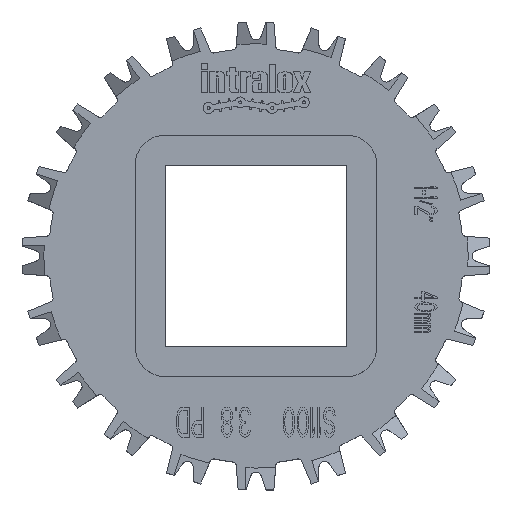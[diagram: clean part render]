
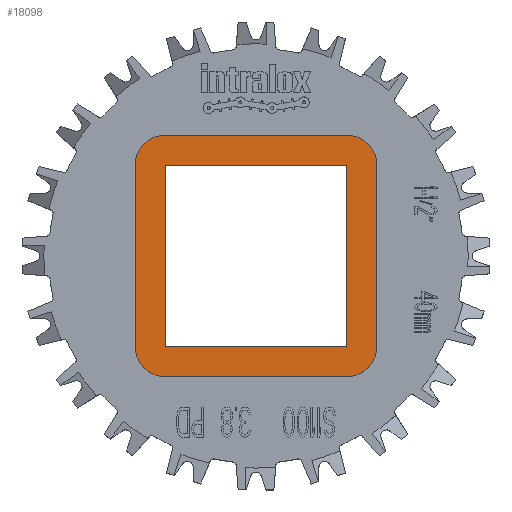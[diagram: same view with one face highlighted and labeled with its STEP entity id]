
A CAD part, top view. The second image highlights one B-rep face of the part: STEP entity #18098.
In plain terms, the highlighted planar face has unit normal (0, 0, 1).
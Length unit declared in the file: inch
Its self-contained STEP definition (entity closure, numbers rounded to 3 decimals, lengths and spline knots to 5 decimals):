
#1=DIRECTION('',(-1.,0.,0.));
#2=VECTOR('',#1,1.5);
#3=CARTESIAN_POINT('',(0.75,1.,0.49));
#4=LINE('',#3,#2);
#5=DIRECTION('',(0.,1.,0.));
#6=VECTOR('',#5,1.5);
#7=CARTESIAN_POINT('',(1.,-0.75,0.49));
#8=LINE('',#7,#6);
#9=DIRECTION('',(1.,0.,0.));
#10=VECTOR('',#9,1.5);
#11=CARTESIAN_POINT('',(-0.75,-1.,0.49));
#12=LINE('',#11,#10);
#13=DIRECTION('',(0.,-1.,0.));
#14=VECTOR('',#13,1.5);
#15=CARTESIAN_POINT('',(-1.,0.75,0.49));
#16=LINE('',#15,#14);
#17=DIRECTION('',(0.,-1.,0.));
#18=VECTOR('',#17,1.5);
#19=CARTESIAN_POINT('',(-0.75,0.75,0.49));
#20=LINE('',#19,#18);
#21=DIRECTION('',(1.,0.,0.));
#22=VECTOR('',#21,1.5);
#23=CARTESIAN_POINT('',(-0.75,-0.75,0.49));
#24=LINE('',#23,#22);
#25=DIRECTION('',(0.,1.,0.));
#26=VECTOR('',#25,1.5);
#27=CARTESIAN_POINT('',(0.75,-0.75,0.49));
#28=LINE('',#27,#26);
#29=DIRECTION('',(-1.,0.,0.));
#30=VECTOR('',#29,1.5);
#31=CARTESIAN_POINT('',(0.75,0.75,0.49));
#32=LINE('',#31,#30);
#46=CARTESIAN_POINT('',(-0.75,0.75,0.49));
#47=DIRECTION('',(0.,0.,1.));
#48=DIRECTION('',(0.,1.,0.));
#49=AXIS2_PLACEMENT_3D('',#46,#47,#48);
#64=CARTESIAN_POINT('',(-0.75,-0.75,0.49));
#65=DIRECTION('',(0.,0.,1.));
#66=DIRECTION('',(-1.,0.,0.));
#67=AXIS2_PLACEMENT_3D('',#64,#65,#66);
#82=CARTESIAN_POINT('',(0.75,-0.75,0.49));
#83=DIRECTION('',(0.,0.,1.));
#84=DIRECTION('',(0.,-1.,0.));
#85=AXIS2_PLACEMENT_3D('',#82,#83,#84);
#100=CARTESIAN_POINT('',(0.75,0.75,0.49));
#101=DIRECTION('',(0.,0.,1.));
#102=DIRECTION('',(1.,0.,0.));
#103=AXIS2_PLACEMENT_3D('',#100,#101,#102);
#14057=CARTESIAN_POINT('',(-1.,0.75,0.49));
#14059=VERTEX_POINT('',#14057);
#14061=CARTESIAN_POINT('',(-0.75,1.,0.49));
#14063=VERTEX_POINT('',#14061);
#14065=CARTESIAN_POINT('',(0.75,1.,0.49));
#14067=VERTEX_POINT('',#14065);
#14069=CARTESIAN_POINT('',(1.,0.75,0.49));
#14071=VERTEX_POINT('',#14069);
#14073=CARTESIAN_POINT('',(1.,-0.75,0.49));
#14075=VERTEX_POINT('',#14073);
#14077=CARTESIAN_POINT('',(0.75,-1.,0.49));
#14079=VERTEX_POINT('',#14077);
#14081=CARTESIAN_POINT('',(-0.75,-1.,0.49));
#14083=VERTEX_POINT('',#14081);
#14085=CARTESIAN_POINT('',(-1.,-0.75,0.49));
#14087=VERTEX_POINT('',#14085);
#18049=CARTESIAN_POINT('',(-0.75,0.75,0.49));
#18050=CARTESIAN_POINT('',(-0.75,-0.75,0.49));
#18051=VERTEX_POINT('',#18049);
#18052=VERTEX_POINT('',#18050);
#18053=CARTESIAN_POINT('',(0.75,-0.75,0.49));
#18054=VERTEX_POINT('',#18053);
#18055=CARTESIAN_POINT('',(0.75,0.75,0.49));
#18056=VERTEX_POINT('',#18055);
#18065=CARTESIAN_POINT('',(0.,0.,0.49));
#18066=DIRECTION('',(0.,0.,1.));
#18067=DIRECTION('',(1.,0.,0.));
#18068=AXIS2_PLACEMENT_3D('',#18065,#18066,#18067);
#18069=PLANE('',#18068);
#18071=ORIENTED_EDGE('',*,*,#18070,.F.);
#18073=ORIENTED_EDGE('',*,*,#18072,.F.);
#18075=ORIENTED_EDGE('',*,*,#18074,.F.);
#18077=ORIENTED_EDGE('',*,*,#18076,.F.);
#18079=ORIENTED_EDGE('',*,*,#18078,.F.);
#18081=ORIENTED_EDGE('',*,*,#18080,.F.);
#18083=ORIENTED_EDGE('',*,*,#18082,.F.);
#18085=ORIENTED_EDGE('',*,*,#18084,.F.);
#18086=EDGE_LOOP('',(#18071,#18073,#18075,#18077,#18079,#18081,#18083,#18085));
#18087=FACE_OUTER_BOUND('',#18086,.F.);
#18089=ORIENTED_EDGE('',*,*,#18088,.T.);
#18091=ORIENTED_EDGE('',*,*,#18090,.T.);
#18093=ORIENTED_EDGE('',*,*,#18092,.T.);
#18095=ORIENTED_EDGE('',*,*,#18094,.T.);
#18096=EDGE_LOOP('',(#18089,#18091,#18093,#18095));
#18097=FACE_BOUND('',#18096,.F.);
#18098=ADVANCED_FACE('',(#18087,#18097),#18069,.T.);
#50=CIRCLE('',#49,0.25);
#68=CIRCLE('',#67,0.25);
#86=CIRCLE('',#85,0.25);
#104=CIRCLE('',#103,0.25);
#18070=EDGE_CURVE('',#14063,#14059,#50,.T.);
#18072=EDGE_CURVE('',#14067,#14063,#4,.T.);
#18074=EDGE_CURVE('',#14071,#14067,#104,.T.);
#18076=EDGE_CURVE('',#14075,#14071,#8,.T.);
#18078=EDGE_CURVE('',#14079,#14075,#86,.T.);
#18080=EDGE_CURVE('',#14083,#14079,#12,.T.);
#18082=EDGE_CURVE('',#14087,#14083,#68,.T.);
#18084=EDGE_CURVE('',#14059,#14087,#16,.T.);
#18088=EDGE_CURVE('',#18051,#18052,#20,.T.);
#18090=EDGE_CURVE('',#18052,#18054,#24,.T.);
#18092=EDGE_CURVE('',#18054,#18056,#28,.T.);
#18094=EDGE_CURVE('',#18056,#18051,#32,.T.);
